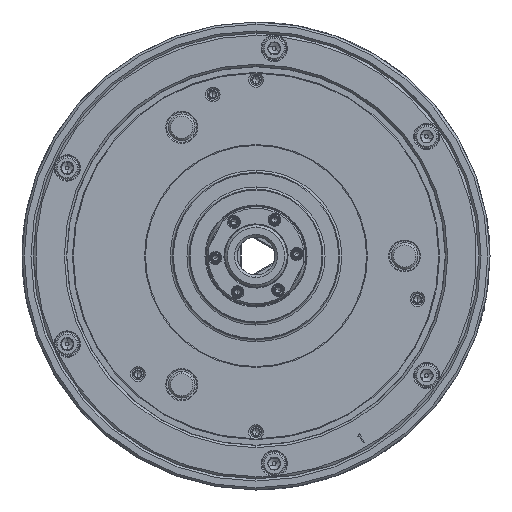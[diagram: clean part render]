
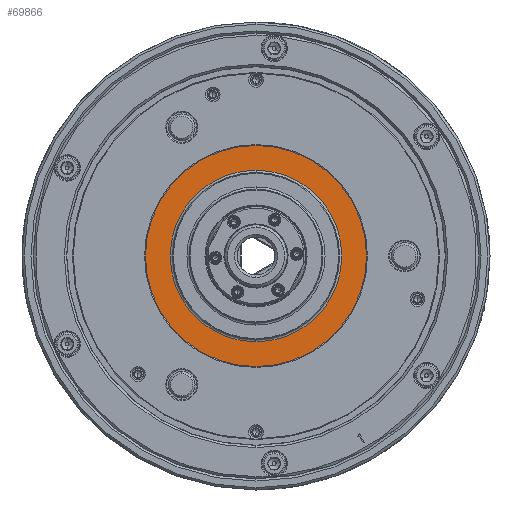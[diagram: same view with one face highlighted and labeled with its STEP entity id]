
A CAD part, left-side view. The second image highlights one B-rep face of the part: STEP entity #69866.
In plain terms, the highlighted planar face has unit normal (-1, 0, 0) as drawn and (0, 0, -1) by its records, which use the part's own axes.
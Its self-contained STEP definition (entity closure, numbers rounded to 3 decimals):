
#9028 = CARTESIAN_POINT ( 'NONE',  ( 38.5, 0., -104.8 ) ) ;
#10577 = AXIS2_PLACEMENT_3D ( 'NONE', #180840, #113197, #26696 ) ;
#12088 = CIRCLE ( 'NONE', #182166, 49.616 ) ;
#13192 = ORIENTED_EDGE ( 'NONE', *, *, #35266, .T. ) ;
#17198 = CIRCLE ( 'NONE', #183750, 49.616 ) ;
#18532 = DIRECTION ( 'NONE',  ( -1., 0., 0. ) ) ;
#21995 = AXIS2_PLACEMENT_3D ( 'NONE', #187654, #121073, #134478 ) ;
#26184 = EDGE_LOOP ( 'NONE', ( #98810, #119529 ) ) ;
#26696 = DIRECTION ( 'NONE',  ( -1., 0., 0. ) ) ;
#35266 = EDGE_CURVE ( 'NONE', #185638, #47061, #17198, .T. ) ;
#36037 = CARTESIAN_POINT ( 'NONE',  ( -49.616, 0., -104.8 ) ) ;
#36255 = DIRECTION ( 'NONE',  ( 0., 0., -1. ) ) ;
#39217 = VERTEX_POINT ( 'NONE', #9028 ) ;
#47061 = VERTEX_POINT ( 'NONE', #188977 ) ;
#49510 = EDGE_LOOP ( 'NONE', ( #13192, #90112 ) ) ;
#51836 = CARTESIAN_POINT ( 'NONE',  ( 0., 0., -104.8 ) ) ;
#64329 = EDGE_CURVE ( 'NONE', #39217, #68006, #198453, .T. ) ;
#66828 = PLANE ( 'NONE',  #21995 ) ;
#68006 = VERTEX_POINT ( 'NONE', #209413 ) ;
#69866 = ADVANCED_FACE ( 'NONE', ( #186555, #167734 ), #66828, .F. ) ;
#82608 = DIRECTION ( 'NONE',  ( -1., 0., 0. ) ) ;
#85675 = CIRCLE ( 'NONE', #135260, 38.5 ) ;
#90112 = ORIENTED_EDGE ( 'NONE', *, *, #127106, .T. ) ;
#98810 = ORIENTED_EDGE ( 'NONE', *, *, #160625, .F. ) ;
#113197 = DIRECTION ( 'NONE',  ( 0., 0., -1. ) ) ;
#119529 = ORIENTED_EDGE ( 'NONE', *, *, #64329, .F. ) ;
#121073 = DIRECTION ( 'NONE',  ( 0., 0., 1. ) ) ;
#127106 = EDGE_CURVE ( 'NONE', #47061, #185638, #12088, .T. ) ;
#134478 = DIRECTION ( 'NONE',  ( 1., 0., 0. ) ) ;
#135260 = AXIS2_PLACEMENT_3D ( 'NONE', #150115, #197855, #217722 ) ;
#150115 = CARTESIAN_POINT ( 'NONE',  ( 0., 0., -104.8 ) ) ;
#160625 = EDGE_CURVE ( 'NONE', #68006, #39217, #85675, .T. ) ;
#167734 = FACE_OUTER_BOUND ( 'NONE', #49510, .T. ) ;
#180840 = CARTESIAN_POINT ( 'NONE',  ( 0., 0., -104.8 ) ) ;
#182166 = AXIS2_PLACEMENT_3D ( 'NONE', #51836, #36255, #18532 ) ;
#183750 = AXIS2_PLACEMENT_3D ( 'NONE', #204583, #219009, #82608 ) ;
#185638 = VERTEX_POINT ( 'NONE', #36037 ) ;
#186555 = FACE_BOUND ( 'NONE', #26184, .T. ) ;
#187654 = CARTESIAN_POINT ( 'NONE',  ( 0., 0., -104.8 ) ) ;
#188977 = CARTESIAN_POINT ( 'NONE',  ( 49.616, 0., -104.8 ) ) ;
#197855 = DIRECTION ( 'NONE',  ( 0., 0., -1. ) ) ;
#198453 = CIRCLE ( 'NONE', #10577, 38.5 ) ;
#204583 = CARTESIAN_POINT ( 'NONE',  ( 0., 0., -104.8 ) ) ;
#209413 = CARTESIAN_POINT ( 'NONE',  ( -38.5, 0., -104.8 ) ) ;
#217722 = DIRECTION ( 'NONE',  ( -1., 0., 0. ) ) ;
#219009 = DIRECTION ( 'NONE',  ( 0., 0., -1. ) ) ;
